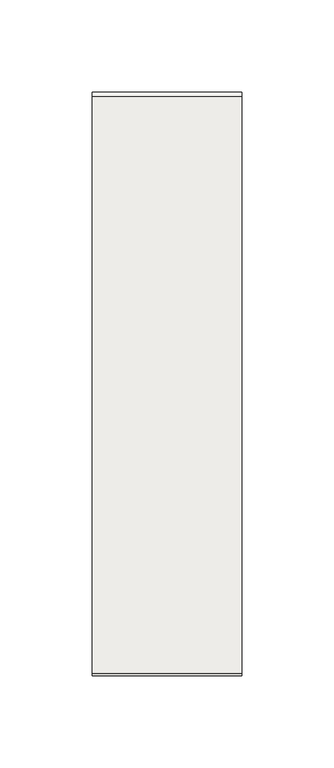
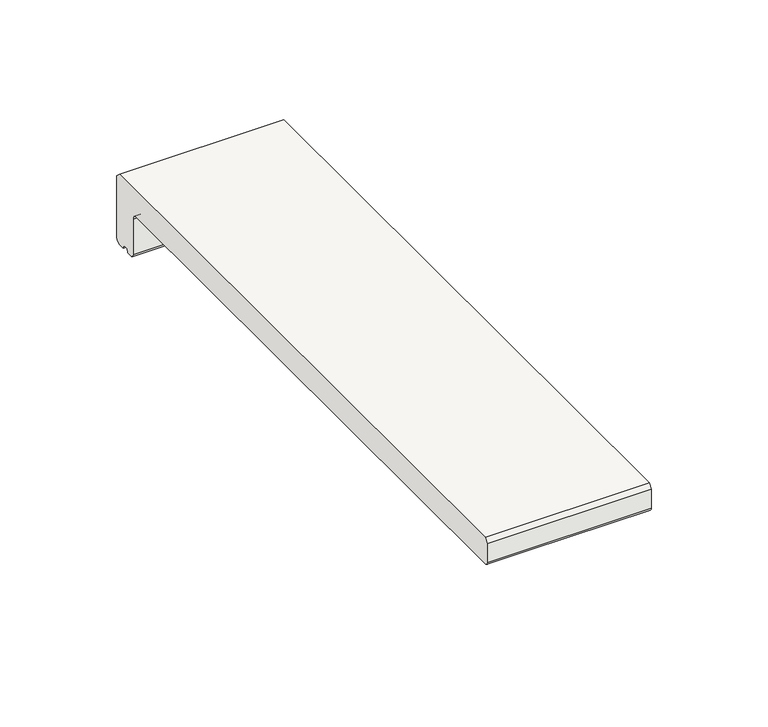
"""IFC4 building model written with IfcOpenShell, lengths in millimetres: slab geometry, ROSA GRES_L62 : Pieza L62_Mistery_Grey_Anti-Slip."""

from ifc_helpers import new_model, si_unit, point, frame, frame_2d, origin, place, context, project, spatial, polyline, circle_curve, trimmed, segment, composite_curve, outline, extrude, source, transform, mapped, element, save


def slab_7a2fa92d(model_context):
    return source(origin(), model_context, "Body", "SweptSolid", [
        extrude(outline(composite_curve([segment(trimmed(circle_curve(frame_2d((-12.1001991, -35.1001991)), 1.8998009), [point((-12.1001991, -37.0))], [point((-14.0, -35.1001991))], False, "CARTESIAN"), True, "CONTINUOUS"), segment(polyline([(-14.0, -35.1001991), (-14.0, -16.5836242)]), True, "CONTINUOUS"), segment(trimmed(circle_curve(frame_2d((-16.6422322, -16.5836242)), 2.6422322), [point((-14.0, -16.5836242))], [point((-16.6422322, -13.9413919))], True, "CARTESIAN"), True, "CONTINUOUS"), segment(polyline([(-16.6422322, -13.9413919), (-315.5234432, -13.9413919)]), True, "CONTINUOUS"), segment(trimmed(circle_curve(frame_2d((-315.5234432, -12.4648352)), 1.4765568), [point((-315.5234432, -13.9413919))], [point((-317.0, -12.4648352))], False, "CARTESIAN"), True, "CONTINUOUS"), segment(polyline([(-317.0, -12.4648352), (-317.0, -2.5), (-315.5, 0.0), (-2.5, 0.0), (0.0, -2.5), (0.0, -34.5)]), True, "CONTINUOUS"), segment(trimmed(circle_curve(frame_2d((-2.5, -34.5)), 2.5), [point((0.0, -34.5))], [point((-2.5, -37.0))], False, "CARTESIAN"), True, "CONTINUOUS"), segment(polyline([(-2.5, -37.0), (-5.422949, -37.0)]), True, "CONTINUOUS"), segment(trimmed(circle_curve(frame_2d((-7.4142134, -37.0)), 1.9912643), [point((-5.422949, -37.0))], [point((-9.4054777, -37.0))], True, "CARTESIAN"), True, "CONTINUOUS"), segment(polyline([(-9.4054777, -37.0), (-12.1001991, -37.0)]), True, "CONTINUOUS")], self_intersect=False)), frame((0.0, 0.0, 0.0), z_axis=(1.0, 0.0, 0.0), x_axis=(0.0, 1.0, 0.0)), (0.0, 0.0, 1.0), 81.1525904),
    ])


if __name__ == "__main__":
    model = new_model("IFC4")
    model_context = context("Model", 3, world=origin())
    ifc_project = project(units=[si_unit("LENGTHUNIT", "METRE", prefix="MILLI")], contexts=[model_context])
    site = spatial("IfcSite", under=ifc_project)
    building = spatial("IfcBuilding", under=site)
    placement = place(None, origin())
    slab_shape = slab_7a2fa92d(model_context)
    element("IfcSlab", 1, ObjectType="ROSA GRES_L62 : Pieza L62_Mistery_Grey_Anti-Slip", at=placement, inside=building, context=model_context, shape_type="MappedRepresentation", body=[
        mapped(slab_shape, transform((0.0, 0.0, 0.0), x_axis=(1.0, 0.0, 0.0), y_axis=(0.0, 1.0, 0.0), z_axis=(0.0, 0.0, 1.0))),
    ])
    save(model, "model.ifc")
